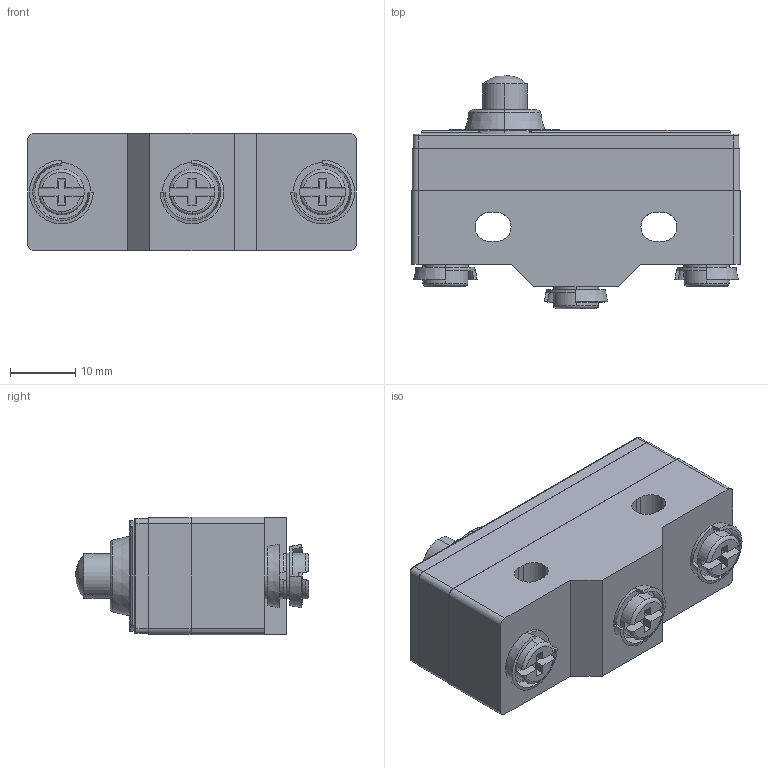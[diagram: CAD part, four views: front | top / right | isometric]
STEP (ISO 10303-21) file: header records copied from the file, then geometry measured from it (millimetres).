
FILE_DESCRIPTION (( 'STEP AP203' ), '1' );
FILE_NAME ('FM1306.STEP', '2018-03-23T13:24:27', ( '' ), ( '' ), 'SwSTEP 2.0', 'SolidWorks 2012', '' );
FILE_SCHEMA (( 'CONFIG_CONTROL_DESIGN' ));
Length unit declared in the file: millimetre
Products named in the file (1): FM1306
Bounding box: 50.3 x 35.7 x 18 mm (x, y, z)
Volume: 19403.1 mm3; surface area: 6213.5 mm2
Topology: 1 solids, 1 shells, 170 faces, 437 edges, 283 vertices
Faces by surface type: plane 86, cylinder 49, torus 17, cone 17, sphere 1
Entity records: 5293 total; most frequent: CARTESIAN_POINT 1022, DIRECTION 898, ORIENTED_EDGE 868, EDGE_CURVE 434, AXIS2_PLACEMENT_3D 325, VERTEX_POINT 281, VECTOR 248, LINE 248
